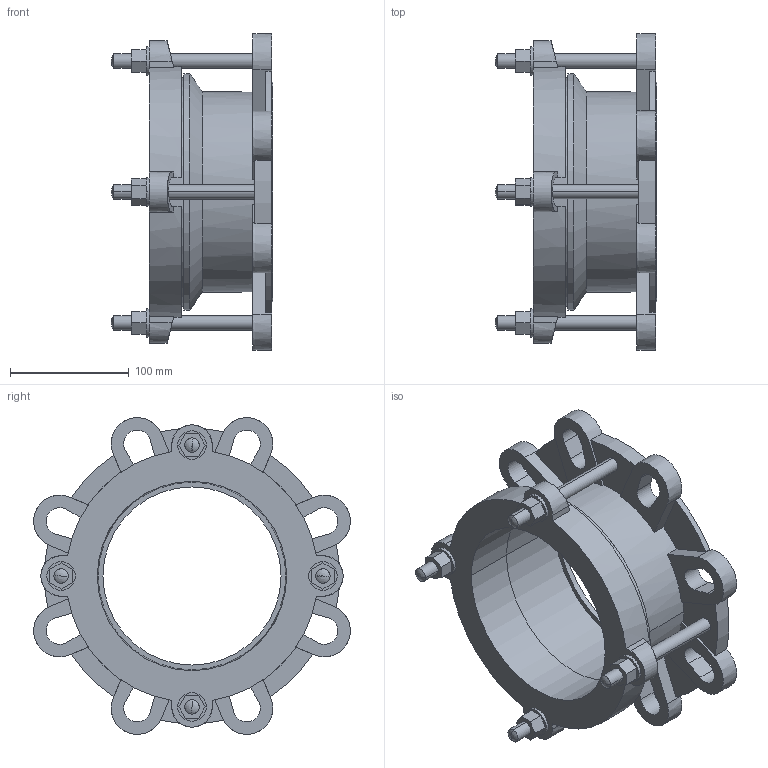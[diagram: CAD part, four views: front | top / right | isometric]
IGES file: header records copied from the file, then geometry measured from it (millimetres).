
Start section:  PTC IGES file: maxidaptor_132-158.igs
Global section: file name: maxidaptor_132-158.igs; native system: Creo Parametric by PTC Inc.; preprocessor: 2016130; author: MReader; organization: Unknown; date: 20181005.110848; units: millimetre
Bounding box: 136 x 266.61 x 266.61 mm (x, y, z)
Surface area: 249553.5 mm2 (no closed solid volume)
Topology: 0 solids, 0 shells, 213 faces, 1148 edges, 1140 vertices
Faces by surface type: bspline 121, revolution 92
